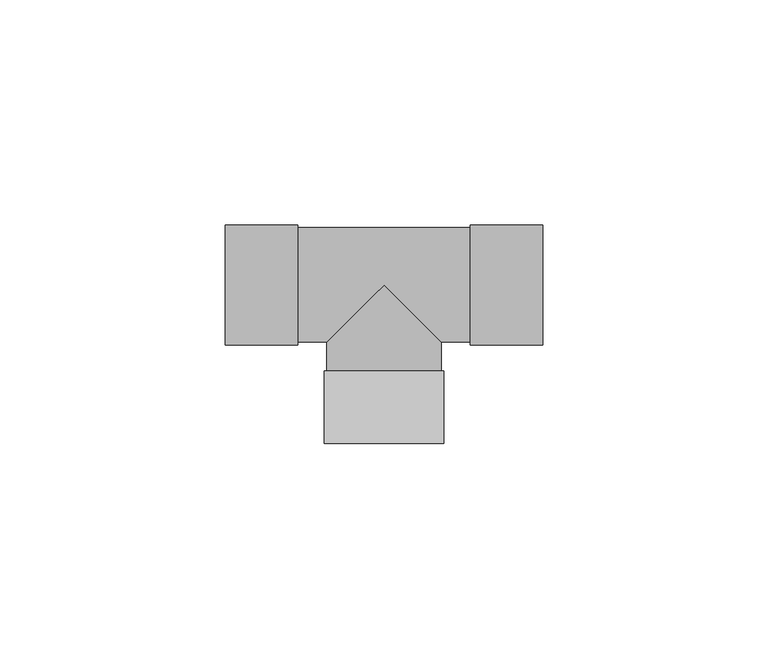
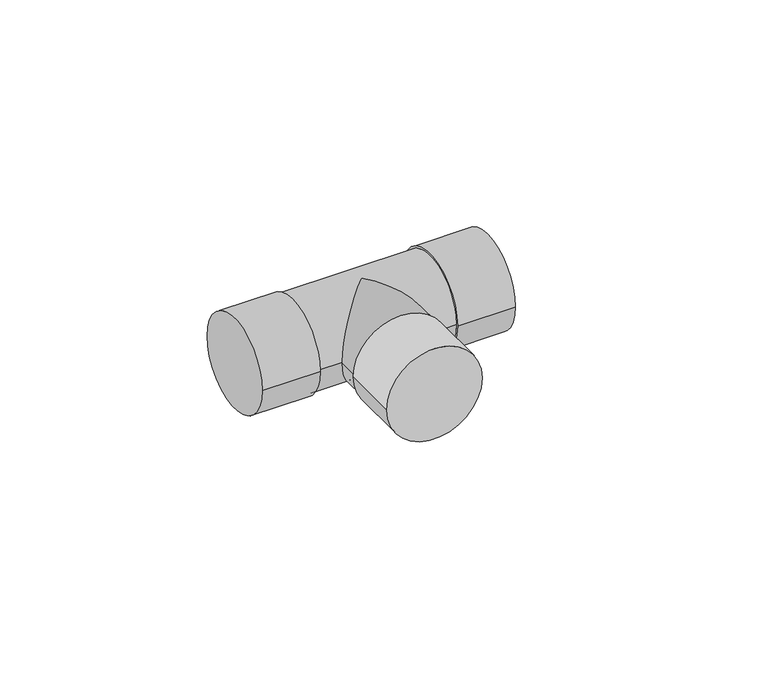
"""IFC4 building model written with IfcOpenShell, lengths in millimetres: pipe fitting geometry, Tê - Soldado - CU : Padrão."""

from ifc_helpers import new_model, si_unit, frame, origin, place, context, project, spatial, circle_curve, ellipse_curve, source, transform, mapped, element, save
from ifc_brep_helpers import plane_surface, cylinder_surface, advanced_brep


def pipe_fitting_8aefc26a(model_context):
    return source(origin(), model_context, "Body", "AdvancedBrep", [
        advanced_brep(
        [(13.324, -35.304, 0.0), (-13.324, -35.304, 0.0), (13.324, -19.156, 0.0), (-13.324, -19.156, 0.0), (12.7, -19.156, 0.0), (-12.7, -19.156, 0.0), (-35.307, -13.324, 0.0), (-35.307, 13.324, 0.0), (-19.159, -13.324, 0.0), (-19.159, 13.324, 0.0), (-19.159, -12.7, 0.0), (-19.159, 12.7, 0.0), (19.159, 12.7, 0.0), (-12.7, -12.7, 0.0), (0.0, 0.0, 12.7), (12.7, -12.7, 0.0), (19.159, -12.7, 0.0), (0.0, 0.0, -12.7), (19.159, -13.324, 0.0), (19.159, 13.324, 0.0), (35.307, -13.324, 0.0), (35.307, 13.324, 0.0)],
        [
            (0, 1, circle_curve(frame((0.0, -35.304, 0.0), z_axis=(0.0, -1.0, 0.0), x_axis=(-1.0, 0.0, 0.0)), 13.324)),
            (1, 0, circle_curve(frame((0.0, -35.304, 0.0), z_axis=(0.0, -1.0, 0.0), x_axis=(-1.0, 0.0, 0.0)), 13.324)),
            (2, 3, circle_curve(frame((0.0, -19.156, 0.0), z_axis=(0.0, 1.0, 0.0), x_axis=(-1.0, 0.0, 0.0)), 13.324)),
            (3, 2, circle_curve(frame((0.0, -19.156, 0.0), z_axis=(0.0, 1.0, 0.0), x_axis=(-1.0, 0.0, 0.0)), 13.324)),
            (4, 5, circle_curve(frame((0.0, -19.156, 0.0), z_axis=(0.0, -1.0, 0.0), x_axis=(1.0, 0.0, 0.0)), 12.7)),
            (5, 4, circle_curve(frame((0.0, -19.156, 0.0), z_axis=(0.0, -1.0, 0.0), x_axis=(1.0, 0.0, 0.0)), 12.7)),
            (0, 2),
            (3, 1),
            (6, 7, circle_curve(frame((-35.307, 0.0, 0.0), z_axis=(-1.0, 0.0, 0.0), x_axis=(0.0, 1.0, 0.0)), 13.324)),
            (7, 6, circle_curve(frame((-35.307, 0.0, 0.0), z_axis=(-1.0, 0.0, 0.0), x_axis=(0.0, 1.0, 0.0)), 13.324)),
            (8, 9, circle_curve(frame((-19.159, 0.0, 0.0), z_axis=(1.0, 0.0, 0.0), x_axis=(0.0, 1.0, 0.0)), 13.324)),
            (9, 8, circle_curve(frame((-19.159, 0.0, 0.0), z_axis=(1.0, 0.0, 0.0), x_axis=(0.0, 1.0, 0.0)), 13.324)),
            (10, 11, circle_curve(frame((-19.159, 0.0, 0.0), z_axis=(-1.0, 0.0, 0.0), x_axis=(0.0, 1.0, 0.0)), 12.7)),
            (11, 10, circle_curve(frame((-19.159, 0.0, 0.0), z_axis=(-1.0, 0.0, 0.0), x_axis=(0.0, 1.0, 0.0)), 12.7)),
            (6, 8),
            (9, 7),
            (12, 11),
            (10, 13),
            (13, 14, ellipse_curve(frame((0.0, 0.0, 0.0), z_axis=(-0.7071067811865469, 0.7071067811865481, 0.0), x_axis=(-0.707106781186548, -0.7071067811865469, 0.0)), 17.9605122, 12.7)),
            (14, 15, ellipse_curve(frame((0.0, 0.0, 0.0), z_axis=(0.7071067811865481, 0.7071067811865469, 0.0), x_axis=(-0.707106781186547, 0.7071067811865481, 0.0)), 17.9605122, 12.7)),
            (15, 16),
            (16, 12, circle_curve(frame((19.159, 0.0, 0.0), z_axis=(-1.0, 0.0, 0.0), x_axis=(0.0, 1.0, 0.0)), 12.7)),
            (12, 16, circle_curve(frame((19.159, 0.0, 0.0), z_axis=(-1.0, 0.0, 0.0), x_axis=(0.0, 1.0, 0.0)), 12.7)),
            (15, 17, ellipse_curve(frame((0.0, 0.0, 0.0), z_axis=(0.7071067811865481, 0.7071067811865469, 0.0), x_axis=(-0.707106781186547, 0.7071067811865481, 0.0)), 17.9605122, 12.7)),
            (17, 13, ellipse_curve(frame((0.0, 0.0, 0.0), z_axis=(-0.7071067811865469, 0.7071067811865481, 0.0), x_axis=(-0.707106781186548, -0.7071067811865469, 0.0)), 17.9605122, 12.7)),
            (18, 19, circle_curve(frame((19.159, 0.0, 0.0), z_axis=(-1.0, 0.0, 0.0), x_axis=(0.0, 1.0, 0.0)), 13.324)),
            (19, 18, circle_curve(frame((19.159, 0.0, 0.0), z_axis=(-1.0, 0.0, 0.0), x_axis=(0.0, 1.0, 0.0)), 13.324)),
            (20, 21, circle_curve(frame((35.307, 0.0, 0.0), z_axis=(1.0, 0.0, 0.0), x_axis=(0.0, 1.0, 0.0)), 13.324)),
            (21, 20, circle_curve(frame((35.307, 0.0, 0.0), z_axis=(1.0, 0.0, 0.0), x_axis=(0.0, 1.0, 0.0)), 13.324)),
            (18, 20),
            (21, 19),
            (4, 15),
            (13, 5),
        ],
        [
            plane_surface(frame((0.0, -35.304, 0.0), z_axis=(0.0, -1.0, 0.0), x_axis=(0.0, 0.0, 1.0))),
            plane_surface(frame((0.0, -19.156, 0.0), z_axis=(0.0, 1.0, 0.0), x_axis=(0.0, 0.0, 1.0))),
            cylinder_surface(frame((0.0, -35.304, 0.0), z_axis=(0.0, -1.0, 0.0), x_axis=(-1.0, 0.0, 0.0)), 13.324),
            plane_surface(frame((-35.307, 0.0, 0.0), z_axis=(-1.0, 0.0, 0.0), x_axis=(0.0, 0.0, 1.0))),
            plane_surface(frame((-19.159, 0.0, 0.0), z_axis=(1.0, 0.0, 0.0), x_axis=(0.0, 0.0, 1.0))),
            cylinder_surface(frame((-35.307, 0.0, 0.0), z_axis=(-1.0, 0.0, 0.0), x_axis=(0.0, 1.0, 0.0)), 13.324),
            cylinder_surface(frame((-19.159, 0.0, 0.0), z_axis=(-1.0, 0.0, 0.0), x_axis=(0.0, 1.0, 0.0)), 12.7),
            plane_surface(frame((19.159, 0.0, 0.0), z_axis=(-1.0, 0.0, 0.0), x_axis=(0.0, 0.0, 1.0))),
            plane_surface(frame((35.307, 0.0, 0.0), z_axis=(1.0, 0.0, 0.0), x_axis=(0.0, 0.0, 1.0))),
            cylinder_surface(frame((19.159, 0.0, 0.0), z_axis=(-1.0, 0.0, 0.0), x_axis=(0.0, 1.0, 0.0)), 13.324),
            cylinder_surface(frame((0.0, 0.0, 0.0), z_axis=(0.0, 1.0, 0.0), x_axis=(1.0, 0.0, 0.0)), 12.7),
        ],
        [
            (0, [[1, 2]]),
            (1, [[3, 4], [5, 6]]),
            (2, [[-1, 7, -4, 8]]),
            (2, [[-2, -8, -3, -7]]),
            (3, [[9, 10]]),
            (4, [[11, 12], [13, 14]]),
            (5, [[-9, 15, -12, 16]]),
            (5, [[-10, -16, -11, -15]]),
            (6, [[17, -13, 18, 19, 20, 21, 22]]),
            (6, [[-17, 23, -21, 24, 25, -18, -14]]),
            (7, [[26, 27], [-22, -23]]),
            (8, [[28, 29]]),
            (9, [[-26, 30, -29, 31]]),
            (9, [[-27, -31, -28, -30]]),
            (10, [[32, -20, -19, 33, -5]]),
            (10, [[-32, -6, -33, -25, -24]]),
        ],
    ),
    ])


if __name__ == "__main__":
    model = new_model("IFC4")
    model_context = context("Model", 3, world=origin())
    ifc_project = project(units=[si_unit("LENGTHUNIT", "METRE", prefix="MILLI")], contexts=[model_context])
    site = spatial("IfcSite", under=ifc_project)
    building = spatial("IfcBuilding", under=site)
    placement = place(None, origin())
    pipe_fitting_shape = pipe_fitting_8aefc26a(model_context)
    element("IfcPipeFitting", 1, ObjectType="Tê - Soldado - CU : Padrão", at=placement, inside=building, context=model_context, shape_type="MappedRepresentation", body=[
        mapped(pipe_fitting_shape, transform((0.0, 0.0, 0.0), x_axis=(1.0, 0.0, 0.0), y_axis=(0.0, 1.0, 0.0), z_axis=(0.0, 0.0, 1.0))),
    ])
    save(model, "model.ifc")
